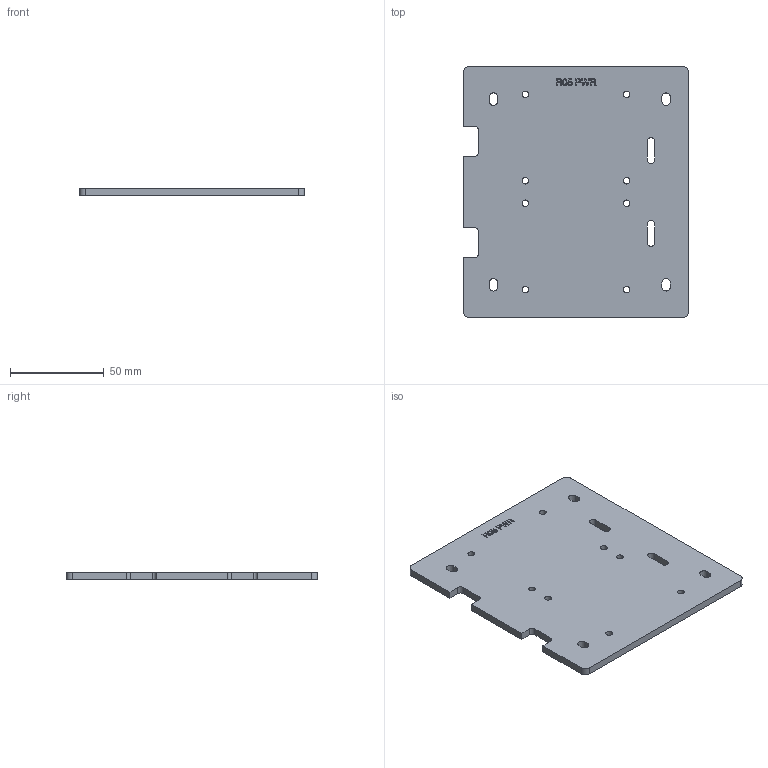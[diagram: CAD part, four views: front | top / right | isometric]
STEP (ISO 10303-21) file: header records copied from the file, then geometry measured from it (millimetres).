
FILE_DESCRIPTION(('Open CASCADE Model'),'2;1');
FILE_NAME('Open CASCADE Shape Model','2026-10-14T15:05:42',('Author'),( 'Open CASCADE'),'Open CASCADE STEP processor 7.8','Open CASCADE 7.8' ,'Unknown');
FILE_SCHEMA(('AUTOMOTIVE_DESIGN { 1 0 10303 214 1 1 1 1 }'));
Length unit declared in the file: millimetre
Products named in the file (1): Open CASCADE STEP translator 7.8 3
Bounding box: 120 x 133.8 x 4 mm (x, y, z)
Volume: 62028 mm3; surface area: 34114.3 mm2
Topology: 1 solids, 1 shells, 194 faces, 546 edges, 364 vertices
Faces by surface type: plane 86, extrusion 80, cylinder 28
Full cylindrical faces by diameter (mm): 3.5 x8
Entity records: 15358 total; most frequent: CARTESIAN_POINT 5491, DIRECTION 1382, ORIENTED_EDGE 1092, PCURVE 1092, DEFINITIONAL_REPRESENTATION 1092, VECTOR 1026, LINE 946, B_SPLINE_CURVE_WITH_KNOTS 660
